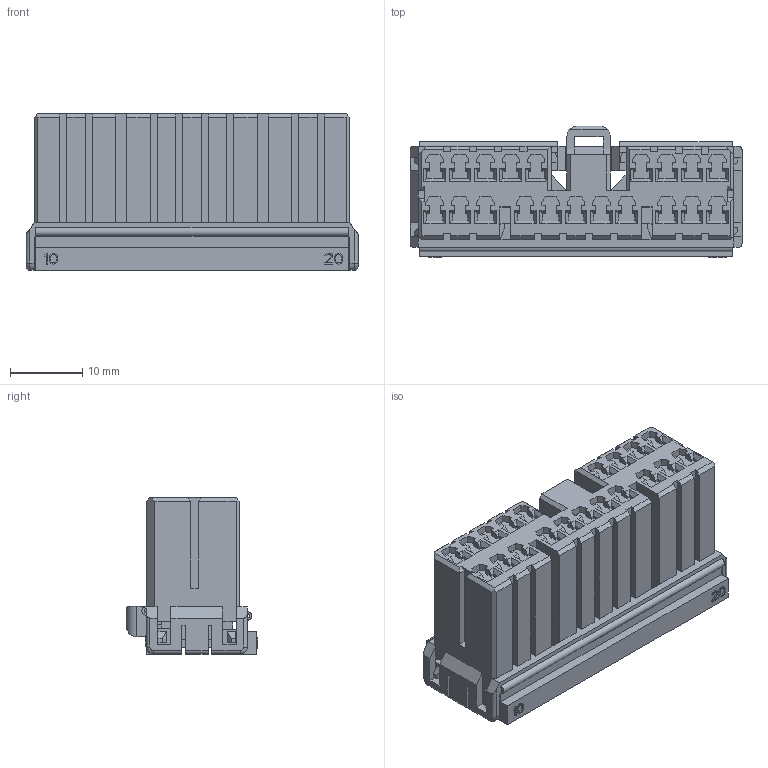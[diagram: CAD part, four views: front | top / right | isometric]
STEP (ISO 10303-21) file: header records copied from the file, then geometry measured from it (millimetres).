
FILE_DESCRIPTION((''),'2;1');
FILE_NAME('C-368511-1','2010-11-24T',('workeradm'),('Tyco Electronics Ltd.'),'PRO/ENGINEER BY PARAMETRIC TECHNOLOGY CORPORATION, 2009300','PRO/ENGINEER BY PARAMETRIC TECHNOLOGY CORPORATION, 2009300','');
FILE_SCHEMA(('AUTOMOTIVE_DESIGN { 1 0 10303 214 1 1 1 1 }'));
Length unit declared in the file: millimetre
Products named in the file (1): C-368511-1
Bounding box: 45.8 x 18.18 x 21.6 mm (x, y, z)
Volume: 10537.1 mm3; surface area: 6704.9 mm2
Topology: 1 solids, 1 shells, 1027 faces, 2935 edges, 1910 vertices
Faces by surface type: plane 996, cylinder 27, torus 3, bspline 1
Entity records: 33008 total; most frequent: CARTESIAN_POINT 5941, ORIENTED_EDGE 5870, DIRECTION 5027, EDGE_CURVE 2935, VECTOR 2879, LINE 2879, VERTEX_POINT 1910, AXIS2_PLACEMENT_3D 1074
